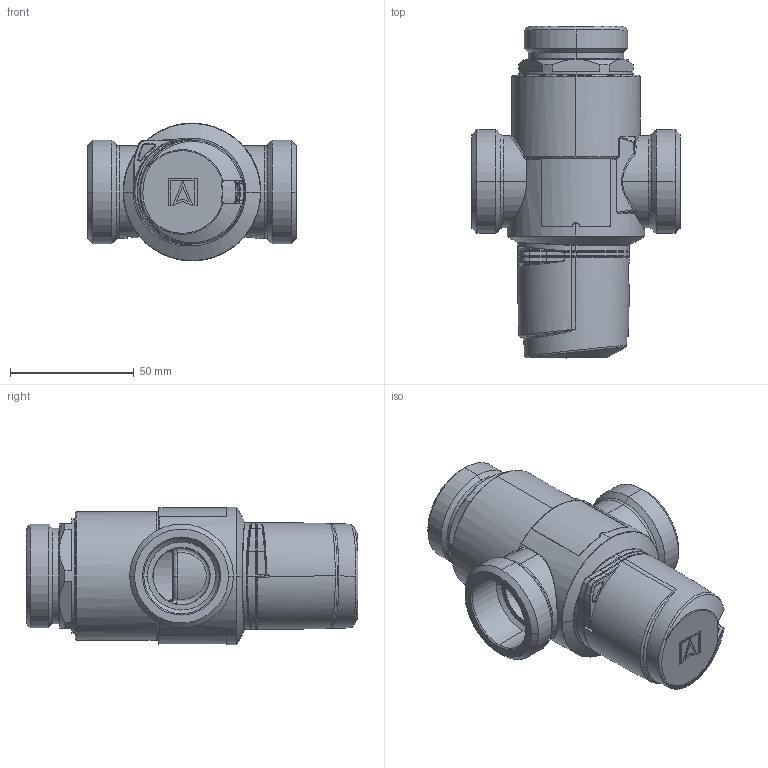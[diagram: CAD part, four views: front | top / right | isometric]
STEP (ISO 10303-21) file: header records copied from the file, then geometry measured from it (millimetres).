
FILE_DESCRIPTION (( 'STEP AP214' ), '1' );
FILE_NAME ('ATM881.STEP', '2022-02-09T11:27:21', ( '' ), ( '' ), 'SwSTEP 2.0', 'SolidWorks 2021', '' );
FILE_SCHEMA (( 'AUTOMOTIVE_DESIGN' ));
Length unit declared in the file: millimetre
Products named in the file (14): 77076_oa_5; 21761; 67084; ATM881; 21587; 67079; 67080; 21760; 77136_oa_3; 77115_oa_8; 21762; 41184; 91329; 67081
Assembly tree (13 placements, depth 3):
  ATM881
    91329
      41184
      21587
      21760
      77136_oa_3
      77076_oa_5
    77115_oa_8
    67084
    67079
    21761
    67080
    21762
    67081
Bounding box: 84 x 134 x 55.6 mm (x, y, z)
Volume: 52058.6 mm3; surface area: 93709.5 mm2
Topology: 10 solids, 605 shells, 2958 faces, 8718 edges, 6218 vertices
Faces by surface type: bspline 1104, cylinder 1076, plane 541, cone 227, torus 10
Entity records: 181095 total; most frequent: CARTESIAN_POINT 91669, ORIENTED_EDGE 14401, DIRECTION 11057, EDGE_CURVE 8541, VERTEX_POINT 6218, AXIS2_PLACEMENT_3D 4433, B_SPLINE_CURVE_WITH_KNOTS 3646, EDGE_LOOP 3015
